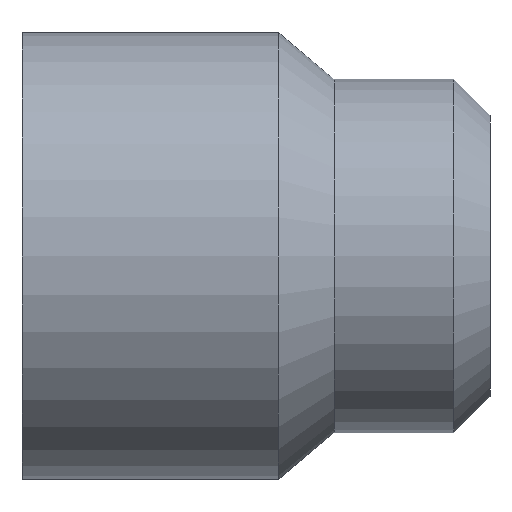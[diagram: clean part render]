
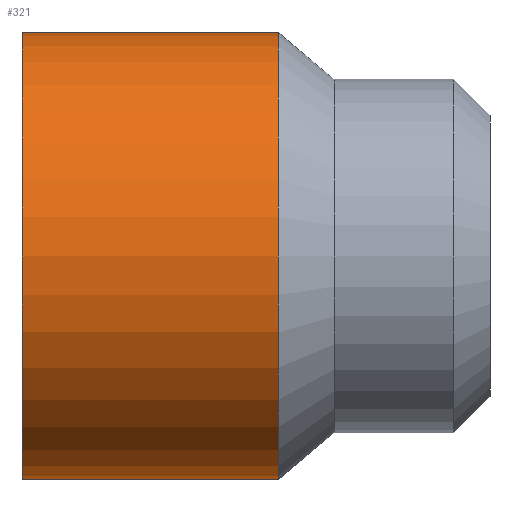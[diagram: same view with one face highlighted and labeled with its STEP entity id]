
A CAD part, front view. The second image highlights one B-rep face of the part: STEP entity #321.
In plain terms, the highlighted cylindrical face has radius 21.5 mm (diameter 43 mm), a full revolution.
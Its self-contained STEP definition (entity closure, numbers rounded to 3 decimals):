
#52=CARTESIAN_POINT('',(48.5,-0.,25.02));
#53=VERTEX_POINT('',#52);
#54=CARTESIAN_POINT('',(48.5,0.,46.52));
#55=DIRECTION('',(1.,0.,0.));
#56=DIRECTION('',(0.,0.,-1.));
#57=AXIS2_PLACEMENT_3D('',#54,#55,#56);
#58=CIRCLE('',#57,21.5);
#59=EDGE_CURVE('',#53,#53,#58,.T.);
#274=CARTESIAN_POINT('',(73.137,0.,68.02));
#275=VERTEX_POINT('',#274);
#285=CARTESIAN_POINT('',(73.137,-0.,25.02));
#286=VERTEX_POINT('',#285);
#287=CARTESIAN_POINT('',(73.137,0.,46.52));
#288=DIRECTION('',(1.,0.,0.));
#289=DIRECTION('',(0.,0.,-1.));
#290=AXIS2_PLACEMENT_3D('',#287,#288,#289);
#291=CIRCLE('',#290,21.5);
#292=EDGE_CURVE('',#275,#286,#291,.T.);
#294=CARTESIAN_POINT('',(73.137,0.,46.52));
#295=DIRECTION('',(1.,0.,0.));
#296=DIRECTION('',(0.,0.,-1.));
#297=AXIS2_PLACEMENT_3D('',#294,#295,#296);
#298=CIRCLE('',#297,21.5);
#299=EDGE_CURVE('',#286,#275,#298,.T.);
#304=CARTESIAN_POINT('',(93.5,0.,46.52));
#305=DIRECTION('',(1.,0.,0.));
#306=DIRECTION('',(0.,0.,-1.));
#307=AXIS2_PLACEMENT_3D('',#304,#305,#306);
#308=CYLINDRICAL_SURFACE('',#307,21.5);
#309=CARTESIAN_POINT('',(73.137,0.,25.02));
#310=DIRECTION('',(-1.,-0.,0.));
#311=VECTOR('',#310,24.637);
#312=LINE('',#309,#311);
#313=EDGE_CURVE('',#286,#53,#312,.T.);
#314=ORIENTED_EDGE('',*,*,#313,.T.);
#315=ORIENTED_EDGE('',*,*,#59,.T.);
#316=ORIENTED_EDGE('',*,*,#313,.F.);
#317=ORIENTED_EDGE('',*,*,#292,.F.);
#318=ORIENTED_EDGE('',*,*,#299,.F.);
#319=EDGE_LOOP('',(#314,#315,#316,#317,#318));
#320=FACE_BOUND('',#319,.T.);
#321=ADVANCED_FACE('',(#320),#308,.T.);
